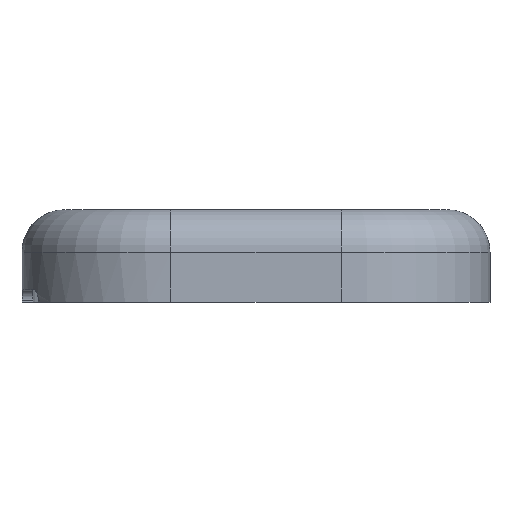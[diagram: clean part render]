
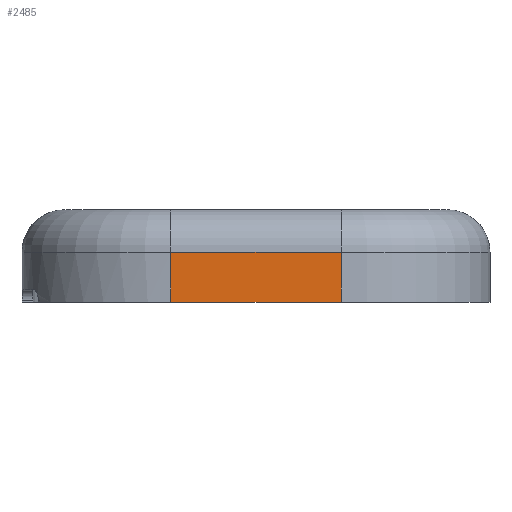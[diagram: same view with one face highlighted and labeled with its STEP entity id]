
A CAD part, front view. The second image highlights one B-rep face of the part: STEP entity #2485.
In plain terms, the highlighted planar face has unit normal (0, -1, 0).
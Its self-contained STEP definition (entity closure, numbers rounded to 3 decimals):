
#263 = CYLINDRICAL_SURFACE('',#264,28.);
#264 = AXIS2_PLACEMENT_3D('',#265,#266,#267);
#265 = CARTESIAN_POINT('',(-16.,-40.,-13.2));
#266 = DIRECTION('',(0.,0.,1.));
#267 = DIRECTION('',(-0.707,-0.707,0.));
#749 = VERTEX_POINT('',#750);
#750 = CARTESIAN_POINT('',(-16.,-68.,-4.2));
#765 = PLANE('',#766);
#766 = AXIS2_PLACEMENT_3D('',#767,#768,#769);
#767 = CARTESIAN_POINT('',(0.,0.,-4.2));
#768 = DIRECTION('',(0.,0.,1.));
#769 = DIRECTION('',(1.,0.,-0.));
#777 = EDGE_CURVE('',#749,#778,#780,.T.);
#778 = VERTEX_POINT('',#779);
#779 = CARTESIAN_POINT('',(-16.,-68.,5.2));
#780 = SURFACE_CURVE('',#781,(#785,#792),.PCURVE_S1.);
#781 = LINE('',#782,#783);
#782 = CARTESIAN_POINT('',(-16.,-68.,-13.2));
#783 = VECTOR('',#784,1.);
#784 = DIRECTION('',(0.,0.,1.));
#785 = PCURVE('',#263,#786);
#786 = DEFINITIONAL_REPRESENTATION('',(#787),#791);
#787 = LINE('',#788,#789);
#788 = CARTESIAN_POINT('',(7.069,0.));
#789 = VECTOR('',#790,1.);
#790 = DIRECTION('',(0.,1.));
#791 = ( GEOMETRIC_REPRESENTATION_CONTEXT(2) 
PARAMETRIC_REPRESENTATION_CONTEXT() REPRESENTATION_CONTEXT('2D SPACE',''
  ) );
#792 = PCURVE('',#793,#798);
#793 = PLANE('',#794);
#794 = AXIS2_PLACEMENT_3D('',#795,#796,#797);
#795 = CARTESIAN_POINT('',(-44.,-68.,-13.2));
#796 = DIRECTION('',(0.,-1.,0.));
#797 = DIRECTION('',(1.,0.,0.));
#798 = DEFINITIONAL_REPRESENTATION('',(#799),#803);
#799 = LINE('',#800,#801);
#800 = CARTESIAN_POINT('',(28.,0.));
#801 = VECTOR('',#802,1.);
#802 = DIRECTION('',(0.,1.));
#803 = ( GEOMETRIC_REPRESENTATION_CONTEXT(2) 
PARAMETRIC_REPRESENTATION_CONTEXT() REPRESENTATION_CONTEXT('2D SPACE',''
  ) );
#2332 = VERTEX_POINT('',#2333);
#2333 = CARTESIAN_POINT('',(16.,-68.,-4.2));
#2348 = CYLINDRICAL_SURFACE('',#2349,28.);
#2349 = AXIS2_PLACEMENT_3D('',#2350,#2351,#2352);
#2350 = CARTESIAN_POINT('',(16.,-40.,-13.2));
#2351 = DIRECTION('',(0.,0.,1.));
#2352 = DIRECTION('',(0.707,-0.707,0.));
#2360 = EDGE_CURVE('',#749,#2332,#2361,.T.);
#2361 = SURFACE_CURVE('',#2362,(#2366,#2373),.PCURVE_S1.);
#2362 = LINE('',#2363,#2364);
#2363 = CARTESIAN_POINT('',(-22.,-68.,-4.2));
#2364 = VECTOR('',#2365,1.);
#2365 = DIRECTION('',(1.,0.,0.));
#2366 = PCURVE('',#765,#2367);
#2367 = DEFINITIONAL_REPRESENTATION('',(#2368),#2372);
#2368 = LINE('',#2369,#2370);
#2369 = CARTESIAN_POINT('',(-22.,-68.));
#2370 = VECTOR('',#2371,1.);
#2371 = DIRECTION('',(1.,0.));
#2372 = ( GEOMETRIC_REPRESENTATION_CONTEXT(2) 
PARAMETRIC_REPRESENTATION_CONTEXT() REPRESENTATION_CONTEXT('2D SPACE',''
  ) );
#2373 = PCURVE('',#793,#2374);
#2374 = DEFINITIONAL_REPRESENTATION('',(#2375),#2379);
#2375 = LINE('',#2376,#2377);
#2376 = CARTESIAN_POINT('',(22.,9.));
#2377 = VECTOR('',#2378,1.);
#2378 = DIRECTION('',(1.,0.));
#2379 = ( GEOMETRIC_REPRESENTATION_CONTEXT(2) 
PARAMETRIC_REPRESENTATION_CONTEXT() REPRESENTATION_CONTEXT('2D SPACE',''
  ) );
#2485 = ADVANCED_FACE('',(#2486),#793,.T.);
#2486 = FACE_BOUND('',#2487,.T.);
#2487 = EDGE_LOOP('',(#2488,#2489,#2512,#2538));
#2488 = ORIENTED_EDGE('',*,*,#2360,.T.);
#2489 = ORIENTED_EDGE('',*,*,#2490,.F.);
#2490 = EDGE_CURVE('',#2491,#2332,#2493,.T.);
#2491 = VERTEX_POINT('',#2492);
#2492 = CARTESIAN_POINT('',(16.,-68.,5.2));
#2493 = SURFACE_CURVE('',#2494,(#2498,#2505),.PCURVE_S1.);
#2494 = LINE('',#2495,#2496);
#2495 = CARTESIAN_POINT('',(16.,-68.,-13.2));
#2496 = VECTOR('',#2497,1.);
#2497 = DIRECTION('',(0.,0.,-1.));
#2498 = PCURVE('',#793,#2499);
#2499 = DEFINITIONAL_REPRESENTATION('',(#2500),#2504);
#2500 = LINE('',#2501,#2502);
#2501 = CARTESIAN_POINT('',(60.,0.));
#2502 = VECTOR('',#2503,1.);
#2503 = DIRECTION('',(0.,-1.));
#2504 = ( GEOMETRIC_REPRESENTATION_CONTEXT(2) 
PARAMETRIC_REPRESENTATION_CONTEXT() REPRESENTATION_CONTEXT('2D SPACE',''
  ) );
#2505 = PCURVE('',#2348,#2506);
#2506 = DEFINITIONAL_REPRESENTATION('',(#2507),#2511);
#2507 = LINE('',#2508,#2509);
#2508 = CARTESIAN_POINT('',(-0.785,0.));
#2509 = VECTOR('',#2510,1.);
#2510 = DIRECTION('',(0.,-1.));
#2511 = ( GEOMETRIC_REPRESENTATION_CONTEXT(2) 
PARAMETRIC_REPRESENTATION_CONTEXT() REPRESENTATION_CONTEXT('2D SPACE',''
  ) );
#2512 = ORIENTED_EDGE('',*,*,#2513,.F.);
#2513 = EDGE_CURVE('',#778,#2491,#2514,.T.);
#2514 = SURFACE_CURVE('',#2515,(#2519,#2526),.PCURVE_S1.);
#2515 = LINE('',#2516,#2517);
#2516 = CARTESIAN_POINT('',(-22.,-68.,5.2));
#2517 = VECTOR('',#2518,1.);
#2518 = DIRECTION('',(1.,0.,0.));
#2519 = PCURVE('',#793,#2520);
#2520 = DEFINITIONAL_REPRESENTATION('',(#2521),#2525);
#2521 = LINE('',#2522,#2523);
#2522 = CARTESIAN_POINT('',(22.,18.4));
#2523 = VECTOR('',#2524,1.);
#2524 = DIRECTION('',(1.,0.));
#2525 = ( GEOMETRIC_REPRESENTATION_CONTEXT(2) 
PARAMETRIC_REPRESENTATION_CONTEXT() REPRESENTATION_CONTEXT('2D SPACE',''
  ) );
#2526 = PCURVE('',#2527,#2532);
#2527 = CYLINDRICAL_SURFACE('',#2528,8.);
#2528 = AXIS2_PLACEMENT_3D('',#2529,#2530,#2531);
#2529 = CARTESIAN_POINT('',(-22.,-60.,5.2));
#2530 = DIRECTION('',(1.,0.,0.));
#2531 = DIRECTION('',(0.,-0.707,0.707));
#2532 = DEFINITIONAL_REPRESENTATION('',(#2533),#2537);
#2533 = LINE('',#2534,#2535);
#2534 = CARTESIAN_POINT('',(7.069,0.));
#2535 = VECTOR('',#2536,1.);
#2536 = DIRECTION('',(0.,1.));
#2537 = ( GEOMETRIC_REPRESENTATION_CONTEXT(2) 
PARAMETRIC_REPRESENTATION_CONTEXT() REPRESENTATION_CONTEXT('2D SPACE',''
  ) );
#2538 = ORIENTED_EDGE('',*,*,#777,.F.);
